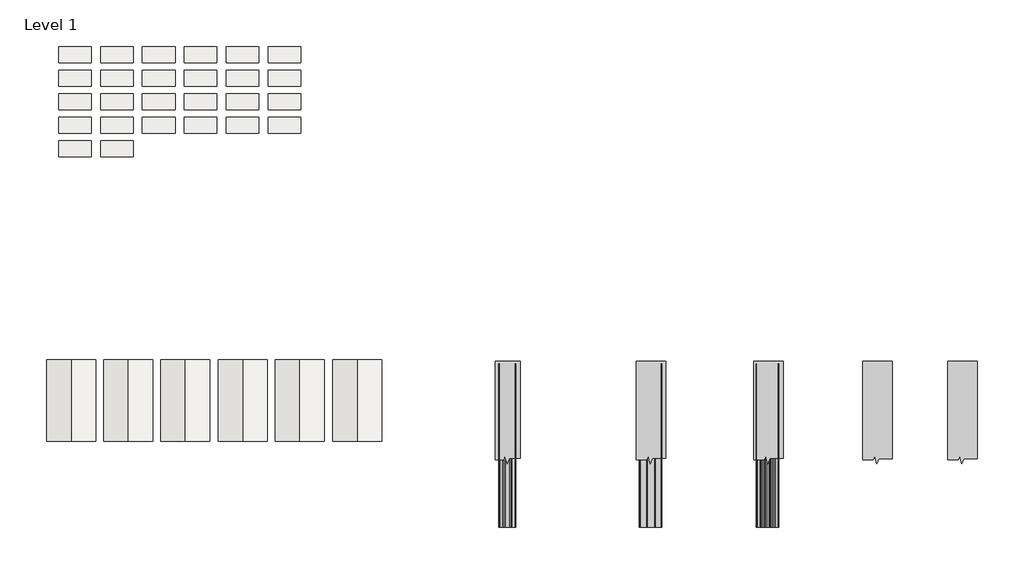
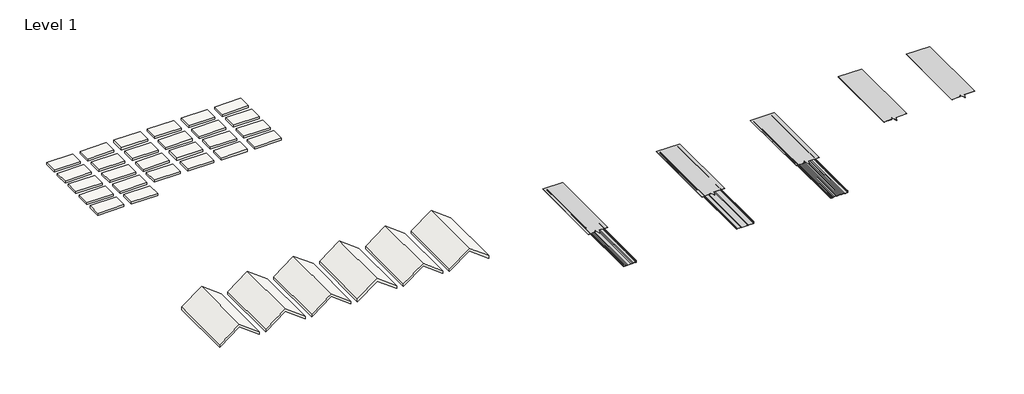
# One storey, incomplete: 26 slabs, 8 proxies, 6 roofs.
"""IFC4 building model written with IfcOpenShell, lengths in millimetres."""

from ifc_helpers import new_model, si_unit, frame, origin, place, context, project, spatial, polyline, outline, extrude, transform, mapped, element, save
from components import generic_models_8f1d55d1, proxy_3ed22cc2, curved_span_lok_16in_pencil_rib_panel_aep_span_curved_span_93f6b263, section_mask_section_mask_bcd5d674, section_mask1_section_mask_9468c03d

model = new_model("IFC4")

# Units and contexts
model_context = context("Model", 3, world=origin())
ifc_project = project(units=[si_unit("LENGTHUNIT", "METRE", prefix="MILLI")], contexts=[model_context])

# Site, building, storey
site = spatial("IfcSite", under=ifc_project)
building = spatial("IfcBuilding", under=site)
storey = spatial("IfcBuildingStorey", under=building, Name="Level 1", Elevation=0.0)

# Proxies
placement = place(None, origin())
generic_models_shape = generic_models_8f1d55d1(model_context)
element("IfcBuildingElementProxy", 1, Name="Curved_Span-Lok_16in-Striated-Panel_AEP_Span : Curved_Span-Lok_16in-Striated-Panel_AEP_Span", ObjectType="Curved_Span-Lok_16in-Striated-Panel_AEP_Span : Curved_Span-Lok_16in-Striated-Panel_AEP_Span", at=placement, inside=storey, context=model_context, shape_type="MappedRepresentation", body=[
    mapped(generic_models_shape, transform((8282.0617447, 1581.1890566, 0.0), x_axis=(1.0, 0.0, 0.0), y_axis=(0.0, 1.0, 0.0), z_axis=(0.0, 0.0, 1.0))),
])
proxy_shape = proxy_3ed22cc2(model_context)
element("IfcBuildingElementProxy", 2, Name="Curved_Span-Lok_12in-Panel_AEP_Span : 12\" Curved Span-Lok hp Flat - 22ga", ObjectType="Curved_Span-Lok_12in-Panel_AEP_Span : 12\" Curved Span-Lok hp Flat - 22ga", at=placement, inside=storey, context=model_context, shape_type="MappedRepresentation", body=[
    mapped(proxy_shape, transform((3427.1560543, 1581.1890566, 0.0), x_axis=(1.0, 0.0, 0.0), y_axis=(0.0, 1.0, 0.0), z_axis=(0.0, 0.0, 1.0))),
])
curved_span_lok_16in_pencil_rib_panel_aep_span_curved_span_shape = curved_span_lok_16in_pencil_rib_panel_aep_span_curved_span_93f6b263(model_context)
element("IfcBuildingElementProxy", 3, Name="Curved_Span-Lok_16in-Pencil-Rib-Panel_AEP_Span : Curved_Span-Lok_16in-Pencil-Rib-Panel_AEP_Span", ObjectType="Curved_Span-Lok_16in-Pencil-Rib-Panel_AEP_Span : Curved_Span-Lok_16in-Pencil-Rib-Panel_AEP_Span", at=placement, inside=storey, context=model_context, shape_type="MappedRepresentation", body=[
    mapped(curved_span_lok_16in_pencil_rib_panel_aep_span_curved_span_shape, transform((6101.9458763, 1581.1890566, 0.0), x_axis=(1.0, 0.0, 0.0), y_axis=(0.0, 1.0, 0.0), z_axis=(0.0, 0.0, 1.0))),
])
section_mask_section_mask_shape = section_mask_section_mask_bcd5d674(model_context)
element("IfcBuildingElementProxy", 4, Name="Section Mask : Section Mask", ObjectType="Section Mask : Section Mask", at=placement, inside=storey, context=model_context, shape_type="MappedRepresentation", body=[
    mapped(section_mask_section_mask_shape, transform((0.0, 0.0, 0.0), x_axis=(1.0, 0.0, 0.0), y_axis=(0.0, 1.0, 0.0), z_axis=(0.0, 0.0, 1.0))),
])
section_mask1_section_mask_shape = section_mask1_section_mask_9468c03d(model_context)
element("IfcBuildingElementProxy", 5, Name="Section Mask1 : Section Mask", ObjectType="Section Mask1 : Section Mask", at=placement, inside=storey, context=model_context, shape_type="MappedRepresentation", body=[
    mapped(section_mask1_section_mask_shape, transform((0.0, 0.0, 0.0), x_axis=(1.0, 0.0, 0.0), y_axis=(0.0, 1.0, 0.0), z_axis=(0.0, 0.0, 1.0))),
])
element("IfcBuildingElementProxy", 6, Name="Section Mask2 : Section Mask", ObjectType="Section Mask2 : Section Mask", at=placement, inside=storey, context=model_context, shape_type="MappedRepresentation", body=[
    mapped(section_mask1_section_mask_shape, transform((2194.0630745, 0.0, 0.0), x_axis=(1.0, 0.0, 0.0), y_axis=(0.0, 1.0, 0.0), z_axis=(0.0, 0.0, 1.0))),
])
element("IfcBuildingElementProxy", 7, Name="Section Mask3 : Section Mask", ObjectType="Section Mask3 : Section Mask", at=placement, inside=storey, context=model_context, shape_type="MappedRepresentation", body=[
    mapped(section_mask1_section_mask_shape, transform((4226.0630745, -3.175, 361.95), x_axis=(1.0, 0.0, 0.0), y_axis=(0.0, 1.0, 0.0), z_axis=(0.0, 0.0, 1.0))),
])
element("IfcBuildingElementProxy", 8, Name="Section Mask4 : Section Mask", ObjectType="Section Mask4 : Section Mask", at=placement, inside=storey, context=model_context, shape_type="MappedRepresentation", body=[
    mapped(section_mask1_section_mask_shape, transform((5811.6979443, -3.175, 361.95), x_axis=(1.0, 0.0, 0.0), y_axis=(0.0, 1.0, 0.0), z_axis=(0.0, 0.0, 1.0))),
])

# Roofs
element("IfcRoof", 9, ObjectType="16\" Curved Span-Lok Striated - 22ga", at=placement, inside=storey, context=model_context, shape_type="SweptSolid", body=[
    extrude(outline(polyline([(63.5, 9.9249771), (406.4, -447.2750229), (63.5, -904.4750229), (0.0, -904.4750229), (342.9, -447.2750229), (0.0, 9.9249771), (63.5, 9.9249771)])), frame((0.0, 140.5584683, 0.0), z_axis=(0.0, 1.0, 0.0), x_axis=(0.0, 0.0, 1.0)), (0.0, 0.0, 1.0), 1524.0),
])
element("IfcRoof", 10, ObjectType="16\" Curved Span-Lok Striated - 24ga", at=placement, inside=storey, context=model_context, shape_type="SweptSolid", body=[
    extrude(outline(polyline([(63.5, 1076.7249771), (406.4, 619.5249771), (63.5, 162.3249771), (0.0, 162.3249771), (342.9, 619.5249771), (0.0, 1076.7249771), (63.5, 1076.7249771)])), frame((0.0, 140.5584683, 0.0), z_axis=(0.0, 1.0, 0.0), x_axis=(0.0, 0.0, 1.0)), (0.0, 0.0, 1.0), 1524.0),
])
element("IfcRoof", 11, ObjectType="12\" Curved Span-Lok Flat - 22ga", at=placement, inside=storey, context=model_context, shape_type="SweptSolid", body=[
    extrude(outline(polyline([(63.5, -4257.2750229), (406.4, -4714.4750229), (63.5, -5171.6750229), (0.0, -5171.6750229), (342.9, -4714.4750229), (0.0, -4257.2750229), (63.5, -4257.2750229)])), frame((0.0, 140.5584683, 0.0), z_axis=(0.0, 1.0, 0.0), x_axis=(0.0, 0.0, 1.0)), (0.0, 0.0, 1.0), 1524.0),
])
element("IfcRoof", 12, ObjectType="12\" Curved Span-Lok Flat - 24ga", at=placement, inside=storey, context=model_context, shape_type="SweptSolid", body=[
    extrude(outline(polyline([(63.5, -3190.4750229), (406.4, -3647.6750229), (63.5, -4104.8750229), (0.0, -4104.8750229), (342.9, -3647.6750229), (0.0, -3190.4750229), (63.5, -3190.4750229)])), frame((0.0, 140.5584683, 0.0), z_axis=(0.0, 1.0, 0.0), x_axis=(0.0, 0.0, 1.0)), (0.0, 0.0, 1.0), 1524.0),
])
element("IfcRoof", 13, ObjectType="16\" Curved Span-Lok Pencil Ribs - 22ga", at=placement, inside=storey, context=model_context, shape_type="SweptSolid", body=[
    extrude(outline(polyline([(63.5, -2123.6750229), (406.4, -2580.8750229), (63.5, -3038.0750229), (0.0, -3038.0750229), (342.9, -2580.8750229), (0.0, -2123.6750229), (63.5, -2123.6750229)])), frame((0.0, 140.5584683, 0.0), z_axis=(0.0, 1.0, 0.0), x_axis=(0.0, 0.0, 1.0)), (0.0, 0.0, 1.0), 1524.0),
])
element("IfcRoof", 14, ObjectType="16\" Curved Span-Lok Pencil Ribs - 24ga", at=placement, inside=storey, context=model_context, shape_type="SweptSolid", body=[
    extrude(outline(polyline([(63.5, -1056.8750229), (406.4, -1514.0750229), (63.5, -1971.2750229), (0.0, -1971.2750229), (342.9, -1514.0750229), (0.0, -1056.8750229), (63.5, -1056.8750229)])), frame((0.0, 140.5584683, 0.0), z_axis=(0.0, 1.0, 0.0), x_axis=(0.0, 0.0, 1.0)), (0.0, 0.0, 1.0), 1524.0),
])

# Slabs
element("IfcSlab", 15, ObjectType="AEP Span Color Sample", at=placement, inside=storey, context=model_context, shape_type="SweptSolid", body=[
    extrude(outline(polyline([(-4336.915334, 7196.0746889), (-4946.515334, 7196.0746889), (-4946.515334, 7500.8746889), (-4336.915334, 7500.8746889), (-4336.915334, 7196.0746889)])), frame((0.0, 0.0, -50.8), z_axis=(0.0, 0.0, 1.0), x_axis=(1.0, 0.0, 0.0)), (0.0, 0.0, 1.0), 50.8),
])
element("IfcSlab", 16, ObjectType="AEP Span Color Sample", at=placement, inside=storey, context=model_context, shape_type="SweptSolid", body=[
    extrude(outline(polyline([(-3555.865334, 7196.0746889), (-4165.465334, 7196.0746889), (-4165.465334, 7500.8746889), (-3555.865334, 7500.8746889), (-3555.865334, 7196.0746889)])), frame((0.0, 0.0, -50.8), z_axis=(0.0, 0.0, 1.0), x_axis=(1.0, 0.0, 0.0)), (0.0, 0.0, 1.0), 50.8),
])
element("IfcSlab", 17, ObjectType="AEP Span Color Sample", at=placement, inside=storey, context=model_context, shape_type="SweptSolid", body=[
    extrude(outline(polyline([(-2774.815334, 7196.0746889), (-3384.415334, 7196.0746889), (-3384.415334, 7500.8746889), (-2774.815334, 7500.8746889), (-2774.815334, 7196.0746889)])), frame((0.0, 0.0, -50.8), z_axis=(0.0, 0.0, 1.0), x_axis=(1.0, 0.0, 0.0)), (0.0, 0.0, 1.0), 50.8),
])
element("IfcSlab", 18, ObjectType="AEP Span Color Sample", at=placement, inside=storey, context=model_context, shape_type="SweptSolid", body=[
    extrude(outline(polyline([(-1993.765334, 7196.0746889), (-2603.365334, 7196.0746889), (-2603.365334, 7500.8746889), (-1993.765334, 7500.8746889), (-1993.765334, 7196.0746889)])), frame((0.0, 0.0, -50.8), z_axis=(0.0, 0.0, 1.0), x_axis=(1.0, 0.0, 0.0)), (0.0, 0.0, 1.0), 50.8),
])
element("IfcSlab", 19, ObjectType="AEP Span Color Sample", at=placement, inside=storey, context=model_context, shape_type="SweptSolid", body=[
    extrude(outline(polyline([(-1212.715334, 7196.0746889), (-1822.315334, 7196.0746889), (-1822.315334, 7500.8746889), (-1212.715334, 7500.8746889), (-1212.715334, 7196.0746889)])), frame((0.0, 0.0, -50.8), z_axis=(0.0, 0.0, 1.0), x_axis=(1.0, 0.0, 0.0)), (0.0, 0.0, 1.0), 50.8),
])
element("IfcSlab", 20, ObjectType="AEP Span Color Sample", at=placement, inside=storey, context=model_context, shape_type="SweptSolid", body=[
    extrude(outline(polyline([(-431.665334, 7196.0746889), (-1041.265334, 7196.0746889), (-1041.265334, 7500.8746889), (-431.665334, 7500.8746889), (-431.665334, 7196.0746889)])), frame((0.0, 0.0, -50.8), z_axis=(0.0, 0.0, 1.0), x_axis=(1.0, 0.0, 0.0)), (0.0, 0.0, 1.0), 50.8),
])
element("IfcSlab", 21, ObjectType="AEP Span Color Sample", at=placement, inside=storey, context=model_context, shape_type="SweptSolid", body=[
    extrude(outline(polyline([(-4336.915334, 6757.9246889), (-4946.515334, 6757.9246889), (-4946.515334, 7062.7246889), (-4336.915334, 7062.7246889), (-4336.915334, 6757.9246889)])), frame((0.0, 0.0, -50.8), z_axis=(0.0, 0.0, 1.0), x_axis=(1.0, 0.0, 0.0)), (0.0, 0.0, 1.0), 50.8),
])
element("IfcSlab", 22, ObjectType="AEP Span Color Sample", at=placement, inside=storey, context=model_context, shape_type="SweptSolid", body=[
    extrude(outline(polyline([(-3555.865334, 6757.9246889), (-4165.465334, 6757.9246889), (-4165.465334, 7062.7246889), (-3555.865334, 7062.7246889), (-3555.865334, 6757.9246889)])), frame((0.0, 0.0, -50.8), z_axis=(0.0, 0.0, 1.0), x_axis=(1.0, 0.0, 0.0)), (0.0, 0.0, 1.0), 50.8),
])
element("IfcSlab", 23, ObjectType="AEP Span Color Sample", at=placement, inside=storey, context=model_context, shape_type="SweptSolid", body=[
    extrude(outline(polyline([(-2774.815334, 6757.9246889), (-3384.415334, 6757.9246889), (-3384.415334, 7062.7246889), (-2774.815334, 7062.7246889), (-2774.815334, 6757.9246889)])), frame((0.0, 0.0, -50.8), z_axis=(0.0, 0.0, 1.0), x_axis=(1.0, 0.0, 0.0)), (0.0, 0.0, 1.0), 50.8),
])
element("IfcSlab", 24, ObjectType="AEP Span Color Sample", at=placement, inside=storey, context=model_context, shape_type="SweptSolid", body=[
    extrude(outline(polyline([(-1993.765334, 6757.9246889), (-2603.365334, 6757.9246889), (-2603.365334, 7062.7246889), (-1993.765334, 7062.7246889), (-1993.765334, 6757.9246889)])), frame((0.0, 0.0, -50.8), z_axis=(0.0, 0.0, 1.0), x_axis=(1.0, 0.0, 0.0)), (0.0, 0.0, 1.0), 50.8),
])
element("IfcSlab", 25, ObjectType="AEP Span Color Sample", at=placement, inside=storey, context=model_context, shape_type="SweptSolid", body=[
    extrude(outline(polyline([(-1212.715334, 6757.9246889), (-1822.315334, 6757.9246889), (-1822.315334, 7062.7246889), (-1212.715334, 7062.7246889), (-1212.715334, 6757.9246889)])), frame((0.0, 0.0, -50.8), z_axis=(0.0, 0.0, 1.0), x_axis=(1.0, 0.0, 0.0)), (0.0, 0.0, 1.0), 50.8),
])
element("IfcSlab", 26, ObjectType="AEP Span Color Sample", at=placement, inside=storey, context=model_context, shape_type="SweptSolid", body=[
    extrude(outline(polyline([(-431.665334, 6757.9246889), (-1041.265334, 6757.9246889), (-1041.265334, 7062.7246889), (-431.665334, 7062.7246889), (-431.665334, 6757.9246889)])), frame((0.0, 0.0, -50.8), z_axis=(0.0, 0.0, 1.0), x_axis=(1.0, 0.0, 0.0)), (0.0, 0.0, 1.0), 50.8),
])
element("IfcSlab", 27, ObjectType="AEP Span Color Sample", at=placement, inside=storey, context=model_context, shape_type="SweptSolid", body=[
    extrude(outline(polyline([(-4336.915334, 6319.7746889), (-4946.515334, 6319.7746889), (-4946.515334, 6624.5746889), (-4336.915334, 6624.5746889), (-4336.915334, 6319.7746889)])), frame((0.0, 0.0, -50.8), z_axis=(0.0, 0.0, 1.0), x_axis=(1.0, 0.0, 0.0)), (0.0, 0.0, 1.0), 50.8),
])
element("IfcSlab", 28, ObjectType="AEP Span Color Sample", at=placement, inside=storey, context=model_context, shape_type="SweptSolid", body=[
    extrude(outline(polyline([(-3555.865334, 6319.7746889), (-4165.465334, 6319.7746889), (-4165.465334, 6624.5746889), (-3555.865334, 6624.5746889), (-3555.865334, 6319.7746889)])), frame((0.0, 0.0, -50.8), z_axis=(0.0, 0.0, 1.0), x_axis=(1.0, 0.0, 0.0)), (0.0, 0.0, 1.0), 50.8),
])
element("IfcSlab", 29, ObjectType="AEP Span Color Sample", at=placement, inside=storey, context=model_context, shape_type="SweptSolid", body=[
    extrude(outline(polyline([(-2774.815334, 6319.7746889), (-3384.415334, 6319.7746889), (-3384.415334, 6624.5746889), (-2774.815334, 6624.5746889), (-2774.815334, 6319.7746889)])), frame((0.0, 0.0, -50.8), z_axis=(0.0, 0.0, 1.0), x_axis=(1.0, 0.0, 0.0)), (0.0, 0.0, 1.0), 50.8),
])
element("IfcSlab", 30, ObjectType="AEP Span Color Sample", at=placement, inside=storey, context=model_context, shape_type="SweptSolid", body=[
    extrude(outline(polyline([(-1993.765334, 6319.7746889), (-2603.365334, 6319.7746889), (-2603.365334, 6624.5746889), (-1993.765334, 6624.5746889), (-1993.765334, 6319.7746889)])), frame((0.0, 0.0, -50.8), z_axis=(0.0, 0.0, 1.0), x_axis=(1.0, 0.0, 0.0)), (0.0, 0.0, 1.0), 50.8),
])
element("IfcSlab", 31, ObjectType="AEP Span Color Sample", at=placement, inside=storey, context=model_context, shape_type="SweptSolid", body=[
    extrude(outline(polyline([(-1212.715334, 6319.7746889), (-1822.315334, 6319.7746889), (-1822.315334, 6624.5746889), (-1212.715334, 6624.5746889), (-1212.715334, 6319.7746889)])), frame((0.0, 0.0, -50.8), z_axis=(0.0, 0.0, 1.0), x_axis=(1.0, 0.0, 0.0)), (0.0, 0.0, 1.0), 50.8),
])
element("IfcSlab", 32, ObjectType="AEP Span Color Sample", at=placement, inside=storey, context=model_context, shape_type="SweptSolid", body=[
    extrude(outline(polyline([(-431.665334, 6319.7746889), (-1041.265334, 6319.7746889), (-1041.265334, 6624.5746889), (-431.665334, 6624.5746889), (-431.665334, 6319.7746889)])), frame((0.0, 0.0, -50.8), z_axis=(0.0, 0.0, 1.0), x_axis=(1.0, 0.0, 0.0)), (0.0, 0.0, 1.0), 50.8),
])
element("IfcSlab", 33, ObjectType="AEP Span Color Sample", at=placement, inside=storey, context=model_context, shape_type="SweptSolid", body=[
    extrude(outline(polyline([(-4336.915334, 5881.6246889), (-4946.515334, 5881.6246889), (-4946.515334, 6186.4246889), (-4336.915334, 6186.4246889), (-4336.915334, 5881.6246889)])), frame((0.0, 0.0, -50.8), z_axis=(0.0, 0.0, 1.0), x_axis=(1.0, 0.0, 0.0)), (0.0, 0.0, 1.0), 50.8),
])
element("IfcSlab", 34, ObjectType="AEP Span Color Sample", at=placement, inside=storey, context=model_context, shape_type="SweptSolid", body=[
    extrude(outline(polyline([(-3555.865334, 5881.6246889), (-4165.465334, 5881.6246889), (-4165.465334, 6186.4246889), (-3555.865334, 6186.4246889), (-3555.865334, 5881.6246889)])), frame((0.0, 0.0, -50.8), z_axis=(0.0, 0.0, 1.0), x_axis=(1.0, 0.0, 0.0)), (0.0, 0.0, 1.0), 50.8),
])
element("IfcSlab", 35, ObjectType="AEP Span Color Sample", at=placement, inside=storey, context=model_context, shape_type="SweptSolid", body=[
    extrude(outline(polyline([(-2774.815334, 5881.6246889), (-3384.415334, 5881.6246889), (-3384.415334, 6186.4246889), (-2774.815334, 6186.4246889), (-2774.815334, 5881.6246889)])), frame((0.0, 0.0, -50.8), z_axis=(0.0, 0.0, 1.0), x_axis=(1.0, 0.0, 0.0)), (0.0, 0.0, 1.0), 50.8),
])
element("IfcSlab", 36, ObjectType="AEP Span Color Sample", at=placement, inside=storey, context=model_context, shape_type="SweptSolid", body=[
    extrude(outline(polyline([(-1993.765334, 5881.6246889), (-2603.365334, 5881.6246889), (-2603.365334, 6186.4246889), (-1993.765334, 6186.4246889), (-1993.765334, 5881.6246889)])), frame((0.0, 0.0, -50.8), z_axis=(0.0, 0.0, 1.0), x_axis=(1.0, 0.0, 0.0)), (0.0, 0.0, 1.0), 50.8),
])
element("IfcSlab", 37, ObjectType="AEP Span Color Sample", at=placement, inside=storey, context=model_context, shape_type="SweptSolid", body=[
    extrude(outline(polyline([(-1212.715334, 5881.6246889), (-1822.315334, 5881.6246889), (-1822.315334, 6186.4246889), (-1212.715334, 6186.4246889), (-1212.715334, 5881.6246889)])), frame((0.0, 0.0, -50.8), z_axis=(0.0, 0.0, 1.0), x_axis=(1.0, 0.0, 0.0)), (0.0, 0.0, 1.0), 50.8),
])
element("IfcSlab", 38, ObjectType="AEP Span Color Sample", at=placement, inside=storey, context=model_context, shape_type="SweptSolid", body=[
    extrude(outline(polyline([(-431.665334, 5881.6246889), (-1041.265334, 5881.6246889), (-1041.265334, 6186.4246889), (-431.665334, 6186.4246889), (-431.665334, 5881.6246889)])), frame((0.0, 0.0, -50.8), z_axis=(0.0, 0.0, 1.0), x_axis=(1.0, 0.0, 0.0)), (0.0, 0.0, 1.0), 50.8),
])
element("IfcSlab", 39, ObjectType="AEP Span Color Sample", at=placement, inside=storey, context=model_context, shape_type="SweptSolid", body=[
    extrude(outline(polyline([(-4336.915334, 5443.4746889), (-4946.515334, 5443.4746889), (-4946.515334, 5748.2746889), (-4336.915334, 5748.2746889), (-4336.915334, 5443.4746889)])), frame((0.0, 0.0, -50.8), z_axis=(0.0, 0.0, 1.0), x_axis=(1.0, 0.0, 0.0)), (0.0, 0.0, 1.0), 50.8),
])
element("IfcSlab", 40, ObjectType="AEP Span Color Sample", at=placement, inside=storey, context=model_context, shape_type="SweptSolid", body=[
    extrude(outline(polyline([(-3555.865334, 5443.4746889), (-4165.465334, 5443.4746889), (-4165.465334, 5748.2746889), (-3555.865334, 5748.2746889), (-3555.865334, 5443.4746889)])), frame((0.0, 0.0, -50.8), z_axis=(0.0, 0.0, 1.0), x_axis=(1.0, 0.0, 0.0)), (0.0, 0.0, 1.0), 50.8),
])

save(model, "model.ifc")
